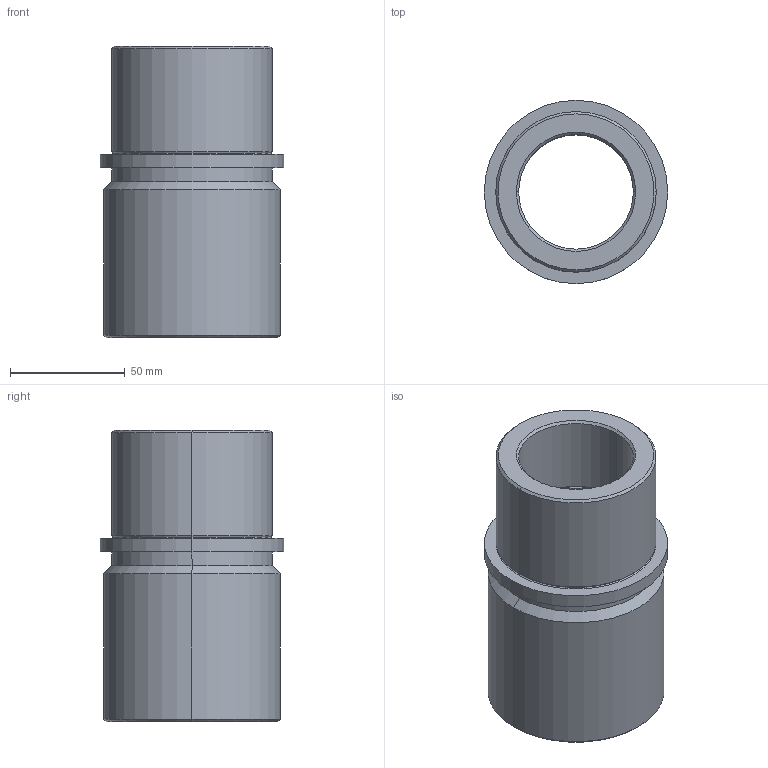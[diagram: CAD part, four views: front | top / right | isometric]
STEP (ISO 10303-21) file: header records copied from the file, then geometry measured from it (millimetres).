
FILE_DESCRIPTION (( 'STEP AP214' ), '1' );
FILE_NAME ('Casquillo SB500-50-127 b.STEP', '2019-01-10T13:36:38', ( '' ), ( '' ), 'SwSTEP 2.0', 'SolidWorks 2018', '' );
FILE_SCHEMA (( 'AUTOMOTIVE_DESIGN' ));
Length unit declared in the file: millimetre
Products named in the file (1): Casquillo SB500-50-127 b
Bounding box: 80 x 80 x 127 mm (x, y, z)
Volume: 299469.4 mm3; surface area: 56643.1 mm2
Topology: 1 solids, 1 shells, 40 faces, 80 edges, 44 vertices
Faces by surface type: cylinder 14, torus 12, cone 10, plane 4
Entity records: 1074 total; most frequent: DIRECTION 218, CARTESIAN_POINT 165, ORIENTED_EDGE 160, AXIS2_PLACEMENT_3D 97, EDGE_CURVE 80, CIRCLE 56, VERTEX_POINT 44, EDGE_LOOP 44
